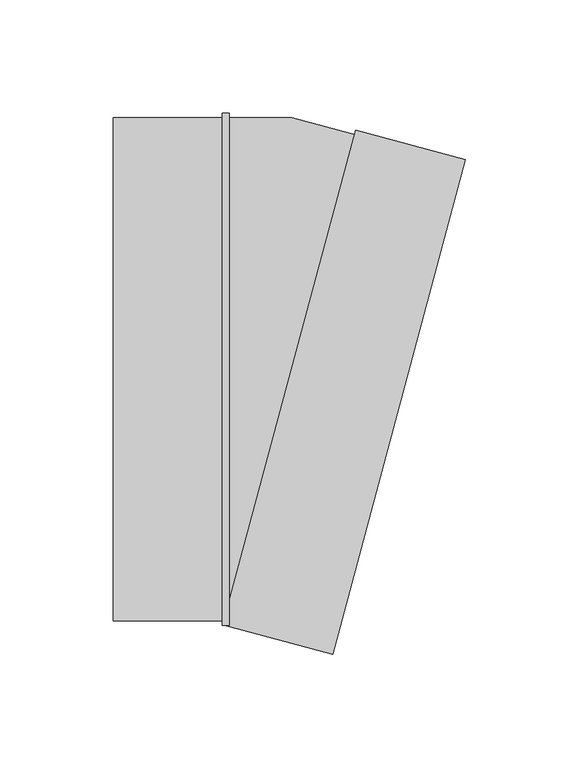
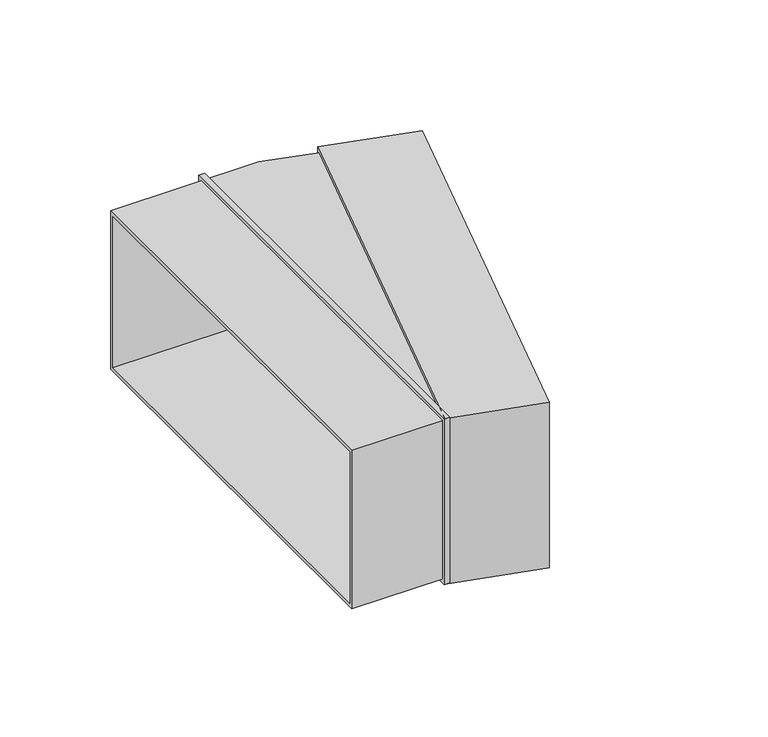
"""IFC4 building model written with IfcOpenShell, lengths in millimetres: proxy geometry, 10811460_D_DFK-BH15 : 28996395_D_10811460_DFK-BH15."""

from ifc_helpers import new_model, si_unit, frame, origin, place, context, project, spatial, polyline, outline, extrude, faceted_brep, source, transform, mapped, element, save


def specialty_equipment_8436bc5d(model_context):
    return source(origin(), model_context, "Body", "SolidModel", [
        faceted_brep([(0.0, -111.0, 44.5), (0.0, 111.0, 44.5), (0.0, 111.0, -44.5), (0.0, -111.0, -44.5), (0.0, -109.0, 42.5), (0.0, -109.0, -42.5), (0.0, 109.0, -42.5), (0.0, 109.0, 42.5), (49.3865728, -111.0, 44.5), (50.7258992, -111.3588714, 44.5), (108.1837272, 103.076662, 44.5), (78.6134272, 111.0, 44.5), (78.6134272, 111.0, -44.5), (108.1837272, 103.076662, -44.5), (50.7258992, -111.3588714, -44.5), (49.3865728, -111.0, -44.5), (49.6498778, -109.0, 42.5), (49.6498778, -109.0, -42.5), (51.2435373, -109.4270198, -42.5), (107.6660891, 101.1448103, -42.5), (78.3501222, 109.0, -42.5), (78.3501222, 109.0, 42.5), (107.6660891, 101.1448103, 42.5), (51.2435373, -109.4270198, 42.5)], [[[0, 1, 2, 3], [4, 5, 6, 7]], [[1, 0, 8, 9, 10, 11]], [[2, 1, 11, 12]], [[3, 2, 12, 13, 14, 15]], [[0, 3, 15, 8]], [[5, 4, 16, 17]], [[6, 5, 17, 18, 19, 20]], [[7, 6, 20, 21]], [[4, 7, 21, 22, 23, 16]], [[12, 11, 10, 13]], [[8, 15, 14, 9]], [[17, 16, 23, 18]], [[21, 20, 19, 22]], [[10, 9, 14, 13], [19, 18, 23, 22]]]),
        extrude(outline(polyline([(-113.0, 46.5), (113.0, 46.5), (113.0, -46.5), (-113.0, -46.5), (-113.0, 46.5)]), holes=[polyline([(-111.0, 44.5), (-111.0, -44.5), (111.0, -44.5), (111.0, 44.5), (-111.0, 44.5)])]), frame((48.0, 0.0, 0.0), z_axis=(1.0, 0.0, 0.0), x_axis=(0.0, 1.0, 0.0)), (0.0, 0.0, 1.0), 3.0),
        extrude(outline(polyline([(22.0, -2.0), (-71.0, -2.0), (-71.0, 223.8755354), (22.0, 223.8755354), (22.0, -2.0)]), holes=[polyline([(-69.0, 0.0), (20.0, 0.0), (20.0, 221.8755353), (-69.0, 221.8755353), (-69.0, 0.0)])]), frame((97.1225527, -123.661962, 24.5), z_axis=(-0.9659258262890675, 0.2588190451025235, 0.0), x_axis=(0.0, 0.0, 1.0)), (0.0, 0.0, 1.0), 50.0),
    ])


if __name__ == "__main__":
    model = new_model("IFC4")
    model_context = context("Model", 3, world=origin())
    ifc_project = project(units=[si_unit("LENGTHUNIT", "METRE", prefix="MILLI")], contexts=[model_context])
    site = spatial("IfcSite", under=ifc_project)
    building = spatial("IfcBuilding", under=site)
    placement = place(None, origin())
    specialty_equipment_shape = specialty_equipment_8436bc5d(model_context)
    element("IfcBuildingElementProxy", 1, Name="10811460_D_DFK-BH15 : 28996395_D_10811460_DFK-BH15", ObjectType="10811460_D_DFK-BH15 : 28996395_D_10811460_DFK-BH15", at=placement, inside=building, context=model_context, shape_type="MappedRepresentation", body=[
        mapped(specialty_equipment_shape, transform((0.0, 0.0, 0.0), x_axis=(1.0, 0.0, 0.0), y_axis=(0.0, 1.0, 0.0), z_axis=(0.0, 0.0, 1.0))),
    ])
    save(model, "model.ifc")
